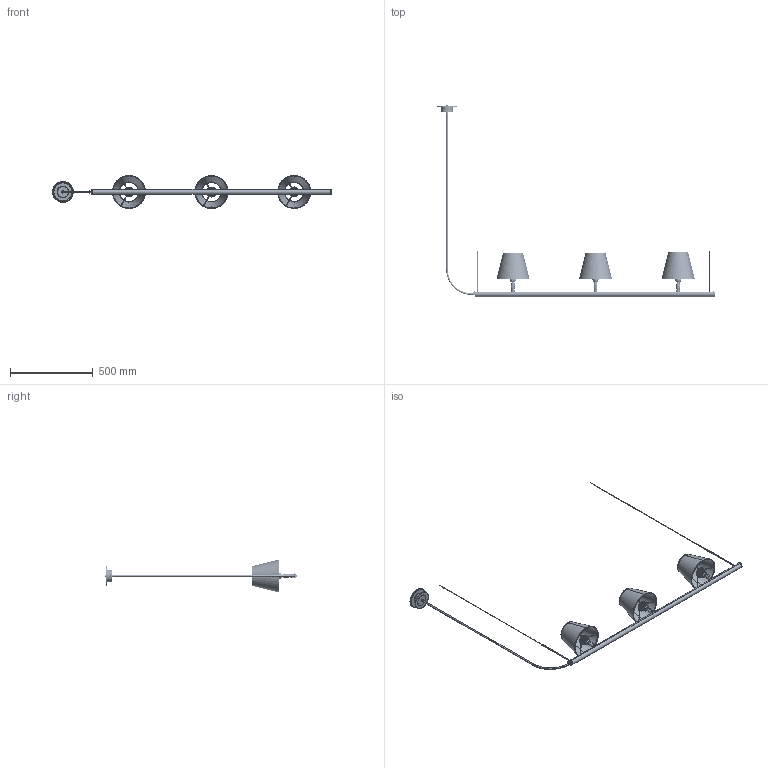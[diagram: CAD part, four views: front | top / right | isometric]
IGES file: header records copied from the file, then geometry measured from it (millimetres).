
Start section: SolidWorks IGES file using analytic representation for surfaces
Global section: file name: C:\Users\berta.gumma\OneDrive - santa &cole\Desktop\Sistema fonda P1 UL.IGS; native system: SolidWorks 2021; preprocessor: SolidWorks 2021; author: berta.gumma; date: 230913.104013; units: millimetre
Bounding box: 1687.6 x 1266.38 x 200.56 mm (x, y, z)
Surface area: 1055918.9 mm2 (no closed solid volume)
Topology: 0 solids, 0 shells, 1507 faces, 21791 edges, 21787 vertices
Faces by surface type: revolution 932, bspline 575
